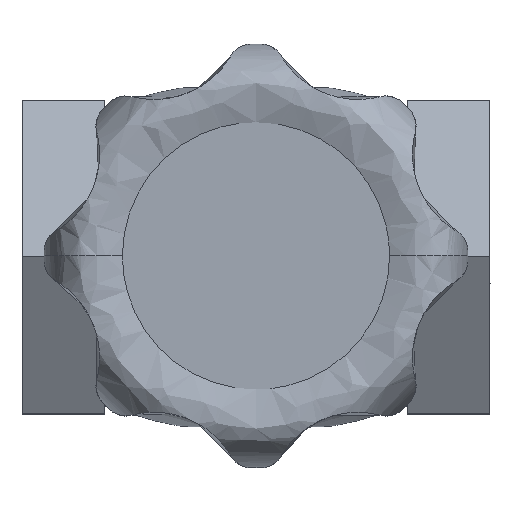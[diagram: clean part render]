
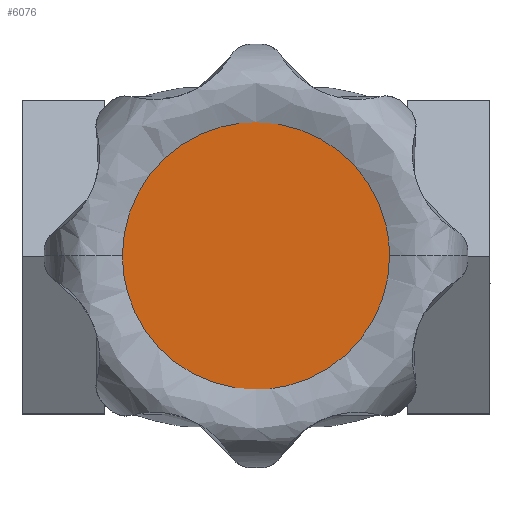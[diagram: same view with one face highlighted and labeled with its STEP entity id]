
A CAD part, top view. The second image highlights one B-rep face of the part: STEP entity #6076.
In plain terms, the highlighted free-form (B-spline) face has degree [1, 1] with [2, 2] control points.
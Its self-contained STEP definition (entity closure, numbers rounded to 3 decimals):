
#2205=CARTESIAN_POINT('',(-24.264,0.,133.435));
#2206=VERTEX_POINT('',#2205);
#2215=CARTESIAN_POINT('',(0.,24.264,133.435));
#2216=VERTEX_POINT('',#2215);
#2217=CARTESIAN_POINT('',(-24.264,0.,133.435));
#2218=CARTESIAN_POINT('',(-24.264,1.439,133.435));
#2219=CARTESIAN_POINT('',(-24.065,3.672,133.435));
#2220=CARTESIAN_POINT('',(-23.237,7.255,133.435));
#2221=CARTESIAN_POINT('',(-22.188,10.001,133.435));
#2222=CARTESIAN_POINT('',(-20.554,13.014,133.435));
#2223=CARTESIAN_POINT('',(-18.645,15.689,133.435));
#2224=CARTESIAN_POINT('',(-15.776,18.593,133.435));
#2225=CARTESIAN_POINT('',(-12.855,20.677,133.435));
#2226=CARTESIAN_POINT('',(-9.768,22.279,133.435));
#2227=CARTESIAN_POINT('',(-6.736,23.406,133.435));
#2228=CARTESIAN_POINT('',(-3.325,24.117,133.435));
#2229=CARTESIAN_POINT('',(-1.042,24.264,133.435));
#2230=CARTESIAN_POINT('',(0.,24.264,133.435));
#2231=B_SPLINE_CURVE_WITH_KNOTS('',3,(#2217,#2218,#2219,#2220,#2221,#2222,#2223,#2224,#2225,#2226,#2227,#2228,#2229,#2230),.UNSPECIFIED.,.F.,.U.,(4,1,1,1,1,1,1,1,1,1,1,4),(0.,4.318,6.7,11.017,13.102,16.973,20.844,25.31,27.692,31.266,34.988,38.114),.UNSPECIFIED.);
#2232=EDGE_CURVE('',#2206,#2216,#2231,.T.);
#2234=CARTESIAN_POINT('',(24.264,0.,133.435));
#2235=VERTEX_POINT('',#2234);
#2236=CARTESIAN_POINT('',(0.,24.264,133.435));
#2237=CARTESIAN_POINT('',(10.051,24.264,133.435));
#2238=CARTESIAN_POINT('',(17.157,17.157,133.435));
#2239=CARTESIAN_POINT('',(24.264,10.051,133.435));
#2240=CARTESIAN_POINT('',(24.264,0.,133.435));
#2248=(BOUNDED_CURVE()B_SPLINE_CURVE(2,(#2236,#2237,#2238,#2239,#2240),.UNSPECIFIED.,.F.,.U.)B_SPLINE_CURVE_WITH_KNOTS((3,2,3),(0.,0.5,1.),.UNSPECIFIED.)CURVE()GEOMETRIC_REPRESENTATION_ITEM()RATIONAL_B_SPLINE_CURVE((1.,0.924,1.,0.924,1.))REPRESENTATION_ITEM(''));
#2249=EDGE_CURVE('',#2216,#2235,#2248,.T.);
#3622=CARTESIAN_POINT('',(0.,-24.264,133.435));
#3623=VERTEX_POINT('',#3622);
#3624=CARTESIAN_POINT('',(24.264,0.,133.435));
#3625=CARTESIAN_POINT('',(24.264,-10.051,133.435));
#3626=CARTESIAN_POINT('',(17.157,-17.157,133.435));
#3627=CARTESIAN_POINT('',(10.051,-24.264,133.435));
#3628=CARTESIAN_POINT('',(0.,-24.264,133.435));
#3636=(BOUNDED_CURVE()B_SPLINE_CURVE(2,(#3624,#3625,#3626,#3627,#3628),.UNSPECIFIED.,.F.,.U.)B_SPLINE_CURVE_WITH_KNOTS((3,2,3),(0.,0.5,1.),.UNSPECIFIED.)CURVE()GEOMETRIC_REPRESENTATION_ITEM()RATIONAL_B_SPLINE_CURVE((1.,0.924,1.,0.924,1.))REPRESENTATION_ITEM(''));
#3637=EDGE_CURVE('',#2235,#3623,#3636,.T.);
#3639=CARTESIAN_POINT('',(0.,-24.264,133.435));
#3640=CARTESIAN_POINT('',(-1.241,-24.264,133.435));
#3641=CARTESIAN_POINT('',(-3.623,-24.081,133.435));
#3642=CARTESIAN_POINT('',(-7.212,-23.264,133.435));
#3643=CARTESIAN_POINT('',(-10.132,-22.117,133.435));
#3644=CARTESIAN_POINT('',(-13.145,-20.483,133.435));
#3645=CARTESIAN_POINT('',(-16.167,-18.284,133.435));
#3646=CARTESIAN_POINT('',(-18.968,-15.305,133.435));
#3647=CARTESIAN_POINT('',(-21.216,-11.963,133.435));
#3648=CARTESIAN_POINT('',(-22.899,-8.406,133.435));
#3649=CARTESIAN_POINT('',(-24.016,-4.268,133.435));
#3650=CARTESIAN_POINT('',(-24.264,-1.39,133.435));
#3651=CARTESIAN_POINT('',(-24.264,0.,133.435));
#3652=B_SPLINE_CURVE_WITH_KNOTS('',3,(#3639,#3640,#3641,#3642,#3643,#3644,#3645,#3646,#3647,#3648,#3649,#3650,#3651),.UNSPECIFIED.,.F.,.U.,(4,1,1,1,1,1,1,1,1,1,4),(0.,3.722,7.146,11.017,13.102,17.419,22.184,25.31,29.479,33.945,38.114),.UNSPECIFIED.);
#3653=EDGE_CURVE('',#3623,#2206,#3652,.T.);
#6065=CARTESIAN_POINT('',(26.688,-26.688,133.435));
#6066=CARTESIAN_POINT('',(-26.688,-26.688,133.435));
#6067=CARTESIAN_POINT('',(26.688,26.688,133.435));
#6068=CARTESIAN_POINT('',(-26.688,26.688,133.435));
#6069=B_SPLINE_SURFACE_WITH_KNOTS('',1,1,((#6065,#6067),(#6066,#6068)),.UNSPECIFIED.,.F.,.F.,.U.,(2,2),(2,2),(0.,53.376),(0.,53.376),.UNSPECIFIED.);
#6070=ORIENTED_EDGE('',*,*,#3653,.F.);
#6071=ORIENTED_EDGE('',*,*,#3637,.F.);
#6072=ORIENTED_EDGE('',*,*,#2249,.F.);
#6073=ORIENTED_EDGE('',*,*,#2232,.F.);
#6074=EDGE_LOOP('',(#6070,#6071,#6072,#6073));
#6075=FACE_OUTER_BOUND('',#6074,.T.);
#6076=ADVANCED_FACE('',(#6075),#6069,.F.);
